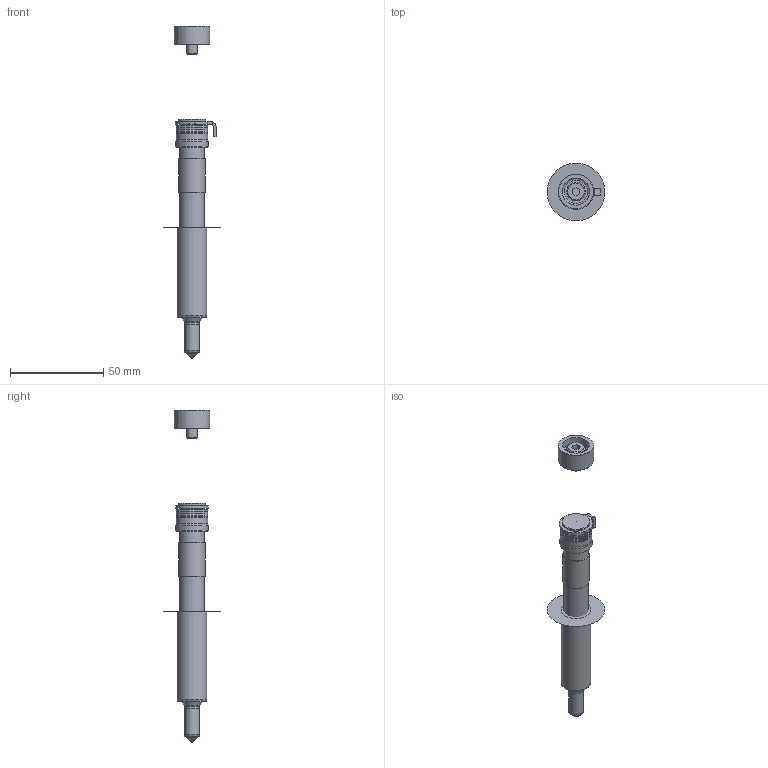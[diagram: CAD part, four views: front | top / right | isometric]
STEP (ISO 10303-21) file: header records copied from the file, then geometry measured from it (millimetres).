
FILE_DESCRIPTION(/* description */ (''),/* implementation_level */ '2;1');
FILE_NAME(/* name */ 'U350 HT-UX.stp',/* time_stamp */ '2021-12-23T14:15:08+08:00',/* author */ (''),/* organization */ (''),/* preprocessor_version */ 'ST-DEVELOPER v16',/* originating_system */ 'SIEMENS PLM Software NX 11.0',/* authorisation */ '');
FILE_SCHEMA (('AUTOMOTIVE_DESIGN { 1 0 10303 214 3 1 1 1 }'));
Length unit declared in the file: millimetre
Products named in the file (12): 3D_EXPORT_3D_ASSY_11313289_1_id64_x_t; 3D_EXPORT_3D_ASSY_11313289_1_id57_x_t; 3D_EXPORT_3D_ASSY_11313289_1_id52_x_t; 3D_EXPORT_3D_ASSY_11313289_1_id47_x_t; 3D_EXPORT_3D_ASSY_11313289_1_id42_x_t; 3D_EXPORT_3D_ASSY_11313289_1_id37_x_t; 3D_EXPORT_3D_ASSY_11313289_1_id32_x_t; 3D_EXPORT_3D_ASSY_11313289_1_id27_x_t; 3D_EXPORT_3D_ASSY_11313289_1_id22_x_t; 3D_EXPORT_3D_ASSY_11313289_1_id11_x_t; 3D_EXPORT_3D_ASSY_11313289_1_id6_x_t; 3D_EXPORT_3D_ASSY_11313289_1_x_t
Assembly tree (15 placements, depth 2):
  3D_EXPORT_3D_ASSY_11313289_1_x_t
    3D_EXPORT_3D_ASSY_11313289_1_id6_x_t
    3D_EXPORT_3D_ASSY_11313289_1_id11_x_t  x4
    3D_EXPORT_3D_ASSY_11313289_1_id22_x_t
    3D_EXPORT_3D_ASSY_11313289_1_id27_x_t
    3D_EXPORT_3D_ASSY_11313289_1_id32_x_t
    3D_EXPORT_3D_ASSY_11313289_1_id37_x_t
    3D_EXPORT_3D_ASSY_11313289_1_id42_x_t
    3D_EXPORT_3D_ASSY_11313289_1_id47_x_t
    3D_EXPORT_3D_ASSY_11313289_1_id52_x_t
    3D_EXPORT_3D_ASSY_11313289_1_id57_x_t  x2
    3D_EXPORT_3D_ASSY_11313289_1_id64_x_t
Bounding box: 30.97 x 30.97 x 178.1 mm (x, y, z)
Volume: 39888.8 mm3; surface area: 19512.6 mm2
Topology: 15 solids, 15 shells, 369 faces, 926 edges, 591 vertices
Faces by surface type: cylinder 165, plane 118, torus 51, cone 34, sphere 1
Full cylindrical faces by diameter (mm): 0.7 x1, 1.194 x1, 5.795 x1, 5.85 x1, 6 x1, 6.89 x1, 7.2 x1, 7.283 x1, 7.87 x1, 7.995 x1, 8 x2, 9.4 x1, 9.95 x1, 9.97 x2, 10 x2, 11.06 x1, 13.3 x2, 14 x1, 14.05 x1, 14.5 x1, 15 x1, 16 x1, 16.9 x4, 17 x1, 17.27 x1, 19 x1, 31 x1
Entity records: 12584 total; most frequent: CARTESIAN_POINT 2191, DIRECTION 1611, ORIENTED_EDGE 1498, EDGE_CURVE 749, AXIS2_PLACEMENT_3D 653, VERTEX_POINT 515, EDGE_LOOP 457, PRESENTATION_STYLE_ASSIGNMENT 352
